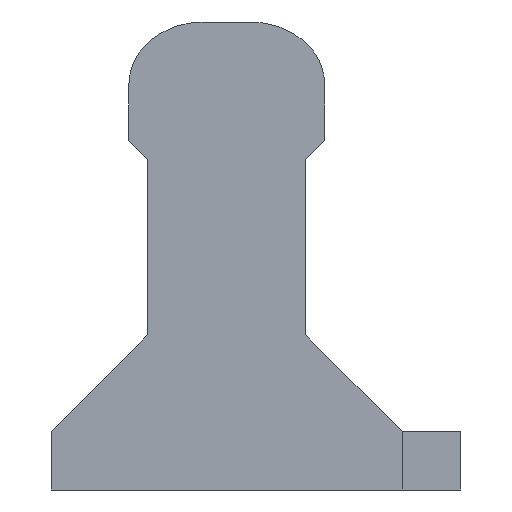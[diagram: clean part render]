
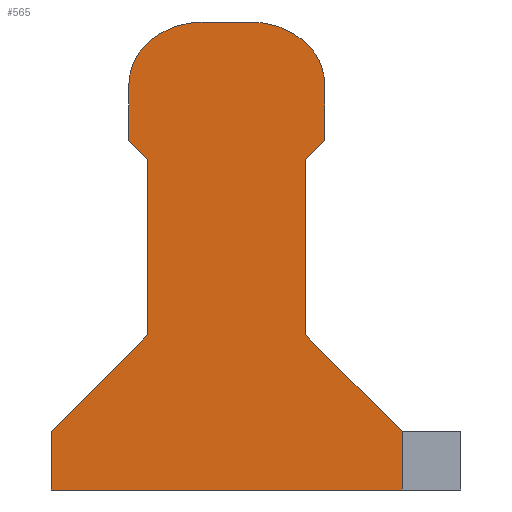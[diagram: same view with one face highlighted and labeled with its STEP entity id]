
A CAD part, front view. The second image highlights one B-rep face of the part: STEP entity #565.
In plain terms, the highlighted planar face has unit normal (0, -1, 0).
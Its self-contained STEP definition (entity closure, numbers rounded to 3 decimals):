
#38=LINE('',#838,#106);
#39=LINE('',#845,#107);
#40=LINE('',#851,#108);
#41=LINE('',#853,#109);
#42=LINE('',#855,#110);
#43=LINE('',#857,#111);
#44=LINE('',#859,#112);
#45=LINE('',#861,#113);
#46=LINE('',#863,#114);
#47=LINE('',#865,#115);
#48=LINE('',#867,#116);
#49=LINE('',#869,#117);
#106=VECTOR('',#675,1000.);
#107=VECTOR('',#680,1000.);
#108=VECTOR('',#685,1000.);
#109=VECTOR('',#686,1000.);
#110=VECTOR('',#687,1000.);
#111=VECTOR('',#688,1000.);
#112=VECTOR('',#689,1000.);
#113=VECTOR('',#690,1000.);
#114=VECTOR('',#691,1000.);
#115=VECTOR('',#692,1000.);
#116=VECTOR('',#693,1000.);
#117=VECTOR('',#694,1000.);
#178=ORIENTED_EDGE('',*,*,#338,.T.);
#179=ORIENTED_EDGE('',*,*,#339,.T.);
#180=ORIENTED_EDGE('',*,*,#340,.T.);
#181=ORIENTED_EDGE('',*,*,#341,.T.);
#182=ORIENTED_EDGE('',*,*,#342,.T.);
#183=ORIENTED_EDGE('',*,*,#343,.T.);
#184=ORIENTED_EDGE('',*,*,#344,.F.);
#185=ORIENTED_EDGE('',*,*,#345,.F.);
#186=ORIENTED_EDGE('',*,*,#346,.F.);
#187=ORIENTED_EDGE('',*,*,#347,.F.);
#188=ORIENTED_EDGE('',*,*,#348,.T.);
#189=ORIENTED_EDGE('',*,*,#349,.T.);
#190=ORIENTED_EDGE('',*,*,#350,.T.);
#191=ORIENTED_EDGE('',*,*,#351,.T.);
#192=ORIENTED_EDGE('',*,*,#352,.T.);
#193=ORIENTED_EDGE('',*,*,#353,.T.);
#338=EDGE_CURVE('',#418,#419,#38,.T.);
#339=EDGE_CURVE('',#419,#420,#460,.T.);
#340=EDGE_CURVE('',#420,#421,#461,.T.);
#341=EDGE_CURVE('',#421,#422,#39,.T.);
#342=EDGE_CURVE('',#422,#423,#462,.T.);
#343=EDGE_CURVE('',#423,#424,#463,.T.);
#344=EDGE_CURVE('',#425,#424,#40,.T.);
#345=EDGE_CURVE('',#426,#425,#41,.T.);
#346=EDGE_CURVE('',#427,#426,#42,.T.);
#347=EDGE_CURVE('',#428,#427,#43,.T.);
#348=EDGE_CURVE('',#428,#429,#44,.T.);
#349=EDGE_CURVE('',#429,#430,#45,.T.);
#350=EDGE_CURVE('',#430,#431,#46,.T.);
#351=EDGE_CURVE('',#431,#432,#47,.T.);
#352=EDGE_CURVE('',#432,#433,#48,.T.);
#353=EDGE_CURVE('',#433,#418,#49,.T.);
#418=VERTEX_POINT('',#839);
#419=VERTEX_POINT('',#840);
#420=VERTEX_POINT('',#842);
#421=VERTEX_POINT('',#844);
#422=VERTEX_POINT('',#846);
#423=VERTEX_POINT('',#848);
#424=VERTEX_POINT('',#850);
#425=VERTEX_POINT('',#852);
#426=VERTEX_POINT('',#854);
#427=VERTEX_POINT('',#856);
#428=VERTEX_POINT('',#858);
#429=VERTEX_POINT('',#860);
#430=VERTEX_POINT('',#862);
#431=VERTEX_POINT('',#864);
#432=VERTEX_POINT('',#866);
#433=VERTEX_POINT('',#868);
#460=CIRCLE('',#613,1.);
#461=CIRCLE('',#614,1.4);
#462=CIRCLE('',#615,1.4);
#463=CIRCLE('',#616,1.);
#469=EDGE_LOOP('',(#178,#179,#180,#181,#182,#183,#184,#185,#186,#187,#188,
#189,#190,#191,#192,#193));
#505=FACE_BOUND('',#469,.T.);
#541=PLANE('',#612);
#565=ADVANCED_FACE('',(#505),#541,.T.);
#612=AXIS2_PLACEMENT_3D('',#837,#673,#674);
#613=AXIS2_PLACEMENT_3D('',#841,#676,#677);
#614=AXIS2_PLACEMENT_3D('',#843,#678,#679);
#615=AXIS2_PLACEMENT_3D('',#847,#681,#682);
#616=AXIS2_PLACEMENT_3D('',#849,#683,#684);
#673=DIRECTION('',(0.,-1.,0.));
#674=DIRECTION('',(0.,0.,-1.));
#675=DIRECTION('',(0.,0.,1.));
#676=DIRECTION('',(0.,-1.,0.));
#677=DIRECTION('',(0.,0.,-1.));
#678=DIRECTION('',(0.,-1.,0.));
#679=DIRECTION('',(0.,0.,-1.));
#680=DIRECTION('',(-1.,0.,0.));
#681=DIRECTION('',(0.,-1.,0.));
#682=DIRECTION('',(0.,0.,-1.));
#683=DIRECTION('',(0.,-1.,0.));
#684=DIRECTION('',(0.,0.,-1.));
#685=DIRECTION('',(0.,0.,1.));
#686=DIRECTION('',(-0.707,0.,0.707));
#687=DIRECTION('',(0.,0.,1.));
#688=DIRECTION('',(0.707,0.,0.707));
#689=DIRECTION('',(0.,0.,-1.));
#690=DIRECTION('',(1.,0.,0.));
#691=DIRECTION('',(0.,0.,1.));
#692=DIRECTION('',(-0.707,0.,0.707));
#693=DIRECTION('',(0.,0.,1.));
#694=DIRECTION('',(0.707,0.,0.707));
#837=CARTESIAN_POINT('',(0.,-30.,0.));
#838=CARTESIAN_POINT('',(1.675,-30.,0.));
#839=CARTESIAN_POINT('',(1.675,-30.,2.975));
#840=CARTESIAN_POINT('',(1.675,-30.,3.91));
#841=CARTESIAN_POINT('',(0.675,-30.,3.91));
#842=CARTESIAN_POINT('',(1.307,-30.,4.685));
#843=CARTESIAN_POINT('',(0.422,-30.,3.6));
#844=CARTESIAN_POINT('',(0.422,-30.,5.));
#845=CARTESIAN_POINT('',(1.8,-30.,5.));
#846=CARTESIAN_POINT('',(-0.422,-30.,5.));
#847=CARTESIAN_POINT('',(-0.422,-30.,3.6));
#848=CARTESIAN_POINT('',(-1.307,-30.,4.685));
#849=CARTESIAN_POINT('',(-0.675,-30.,3.91));
#850=CARTESIAN_POINT('',(-1.675,-30.,3.91));
#851=CARTESIAN_POINT('',(-1.675,-30.,0.));
#852=CARTESIAN_POINT('',(-1.675,-30.,2.975));
#853=CARTESIAN_POINT('',(0.65,-30.,0.65));
#854=CARTESIAN_POINT('',(-1.35,-30.,2.65));
#855=CARTESIAN_POINT('',(-1.35,-30.,0.));
#856=CARTESIAN_POINT('',(-1.35,-30.,-0.35));
#857=CARTESIAN_POINT('',(-0.5,-30.,0.5));
#858=CARTESIAN_POINT('',(-3.,-30.,-2.));
#859=CARTESIAN_POINT('',(-3.,-30.,4.8));
#860=CARTESIAN_POINT('',(-3.,-30.,-3.));
#861=CARTESIAN_POINT('',(-0.959,-30.,-3.));
#862=CARTESIAN_POINT('',(3.,-30.,-3.));
#863=CARTESIAN_POINT('',(3.,-30.,-4.8));
#864=CARTESIAN_POINT('',(3.,-30.,-2.));
#865=CARTESIAN_POINT('',(0.486,-30.,0.514));
#866=CARTESIAN_POINT('',(1.35,-30.,-0.35));
#867=CARTESIAN_POINT('',(1.35,-30.,0.));
#868=CARTESIAN_POINT('',(1.35,-30.,2.65));
#869=CARTESIAN_POINT('',(-0.65,-30.,0.65));
